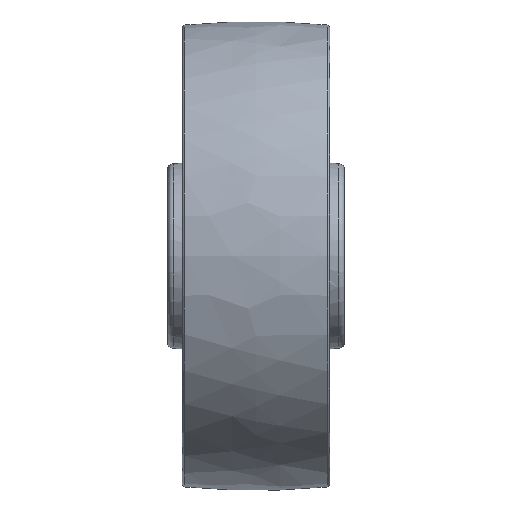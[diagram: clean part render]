
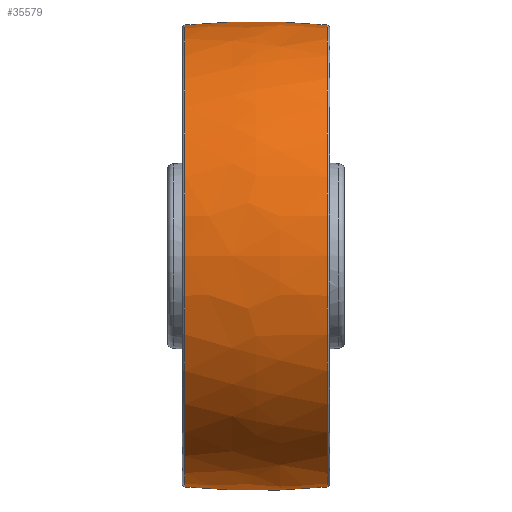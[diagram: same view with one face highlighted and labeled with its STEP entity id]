
A CAD part, top view. The second image highlights one B-rep face of the part: STEP entity #35579.
In plain terms, the highlighted free-form (B-spline) face has degree [3, 3] with [7, 4] control points.
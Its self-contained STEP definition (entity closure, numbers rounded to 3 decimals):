
#225 = CARTESIAN_POINT ( 'NONE',  ( 8.38, -79.763, -5.018 ) ) ;
#292 =( BOUNDED_SURFACE ( )  B_SPLINE_SURFACE ( 3, 3, ( 
 ( #28145, #43094, #48401, #2889 ),
 ( #23142, #43415, #38472, #28474 ),
 ( #3214, #43756, #38793, #58983 ),
 ( #59644, #8873, #19823, #19159 ),
 ( #34781, #40088, #64951, #30446 ),
 ( #60296, #24809, #14847, #3880 ),
 ( #45708, #35102, #225, #54673 ) ),
 .UNSPECIFIED., .F., .F., .T. ) 
 B_SPLINE_SURFACE_WITH_KNOTS ( ( 4, 3, 4 ),
 ( 4, 4 ),
 ( 0., 1., 2. ),
 ( 0., 1. ),
 .UNSPECIFIED. ) 
 GEOMETRIC_REPRESENTATION_ITEM ( )  RATIONAL_B_SPLINE_SURFACE ( (
 ( 1.19, 1.186, 1.186, 1.19),
 ( 0.94, 0.937, 0.937, 0.94),
 ( 0.94, 0.937, 0.937, 0.94),
 ( 1.19, 1.186, 1.186, 1.19),
 ( 0.94, 0.937, 0.937, 0.94),
 ( 0.94, 0.937, 0.937, 0.94),
 ( 1.19, 1.186, 1.186, 1.19) ) ) 
 REPRESENTATION_ITEM ( '' )  SURFACE ( )  );
#520 = CIRCLE ( 'NONE', #13280, 250. ) ;
#2563 = FACE_OUTER_BOUND ( 'NONE', #44171, .T. ) ;
#2689 = CARTESIAN_POINT ( 'NONE',  ( 24.096, -78.336, 0. ) ) ;
#2844 = DIRECTION ( 'NONE',  ( 0., -1., 0. ) ) ;
#2889 = CARTESIAN_POINT ( 'NONE',  ( 25.057, 78.087, -4.913 ) ) ;
#3001 = VERTEX_POINT ( 'NONE', #21703 ) ;
#3214 = CARTESIAN_POINT ( 'NONE',  ( -25.057, 48.149, 78.241 ) ) ;
#3880 = CARTESIAN_POINT ( 'NONE',  ( 25.057, -81.11, 43.142 ) ) ;
#5288 = DIRECTION ( 'NONE',  ( 0.096, 0.995, 0. ) ) ;
#6335 = CARTESIAN_POINT ( 'NONE',  ( -24.096, 0., 0. ) ) ;
#7300 = ORIENTED_EDGE ( 'NONE', *, *, #49768, .F. ) ;
#8873 = CARTESIAN_POINT ( 'NONE',  ( -8.38, 0., 79.921 ) ) ;
#9966 = CARTESIAN_POINT ( 'NONE',  ( 0., 170.5, 0. ) ) ;
#11451 = ORIENTED_EDGE ( 'NONE', *, *, #51114, .T. ) ;
#12252 = EDGE_CURVE ( 'NONE', #21479, #29710, #43837, .T. ) ;
#13280 = AXIS2_PLACEMENT_3D ( 'NONE', #9966, #61375, #61054 ) ;
#14847 = CARTESIAN_POINT ( 'NONE',  ( 8.38, -82.852, 44.068 ) ) ;
#19159 = CARTESIAN_POINT ( 'NONE',  ( 25.057, 0., 78.241 ) ) ;
#19823 = CARTESIAN_POINT ( 'NONE',  ( 8.38, 0., 79.921 ) ) ;
#20095 = ORIENTED_EDGE ( 'NONE', *, *, #57176, .T. ) ;
#21479 = VERTEX_POINT ( 'NONE', #47758 ) ;
#21703 = CARTESIAN_POINT ( 'NONE',  ( 24.096, 78.336, 0. ) ) ;
#23027 = CARTESIAN_POINT ( 'NONE',  ( -24.096, 78.336, 0. ) ) ;
#23142 = CARTESIAN_POINT ( 'NONE',  ( -25.057, 81.11, 43.142 ) ) ;
#24809 = CARTESIAN_POINT ( 'NONE',  ( -8.38, -82.852, 44.068 ) ) ;
#27129 = AXIS2_PLACEMENT_3D ( 'NONE', #48672, #48357, #2844 ) ;
#28145 = CARTESIAN_POINT ( 'NONE',  ( -25.057, 78.087, -4.913 ) ) ;
#28148 = CIRCLE ( 'NONE', #27129, 78.336 ) ;
#28474 = CARTESIAN_POINT ( 'NONE',  ( 25.057, 81.11, 43.142 ) ) ;
#29710 = VERTEX_POINT ( 'NONE', #23027 ) ;
#30087 = VERTEX_POINT ( 'NONE', #2689 ) ;
#30428 = AXIS2_PLACEMENT_3D ( 'NONE', #64733, #41503, #5288 ) ;
#30446 = CARTESIAN_POINT ( 'NONE',  ( 25.057, -48.149, 78.241 ) ) ;
#34781 = CARTESIAN_POINT ( 'NONE',  ( -25.057, -48.149, 78.241 ) ) ;
#35102 = CARTESIAN_POINT ( 'NONE',  ( -8.38, -79.763, -5.018 ) ) ;
#35579 = ADVANCED_FACE ( 'NONE', ( #2563 ), #292, .T. ) ;
#38472 = CARTESIAN_POINT ( 'NONE',  ( 8.38, 82.852, 44.068 ) ) ;
#38793 = CARTESIAN_POINT ( 'NONE',  ( 8.38, 49.183, 79.921 ) ) ;
#40088 = CARTESIAN_POINT ( 'NONE',  ( -8.38, -49.183, 79.921 ) ) ;
#41503 = DIRECTION ( 'NONE',  ( 0., 0., 1. ) ) ;
#42537 = ORIENTED_EDGE ( 'NONE', *, *, #12252, .F. ) ;
#43094 = CARTESIAN_POINT ( 'NONE',  ( -8.38, 79.763, -5.018 ) ) ;
#43415 = CARTESIAN_POINT ( 'NONE',  ( -8.38, 82.852, 44.068 ) ) ;
#43756 = CARTESIAN_POINT ( 'NONE',  ( -8.38, 49.183, 79.921 ) ) ;
#43837 = CIRCLE ( 'NONE', #49095, 78.336 ) ;
#44171 = EDGE_LOOP ( 'NONE', ( #7300, #11451, #20095, #42537 ) ) ;
#45708 = CARTESIAN_POINT ( 'NONE',  ( -25.057, -78.087, -4.913 ) ) ;
#47523 = DIRECTION ( 'NONE',  ( -1., 0., 0. ) ) ;
#47758 = CARTESIAN_POINT ( 'NONE',  ( -24.096, -78.336, 0. ) ) ;
#48357 = DIRECTION ( 'NONE',  ( -1., 0., 0. ) ) ;
#48401 = CARTESIAN_POINT ( 'NONE',  ( 8.38, 79.763, -5.018 ) ) ;
#48672 = CARTESIAN_POINT ( 'NONE',  ( 24.096, 0., 0. ) ) ;
#49095 = AXIS2_PLACEMENT_3D ( 'NONE', #6335, #47523, #62117 ) ;
#49768 = EDGE_CURVE ( 'NONE', #30087, #21479, #520, .T. ) ;
#51114 = EDGE_CURVE ( 'NONE', #30087, #3001, #28148, .T. ) ;
#54673 = CARTESIAN_POINT ( 'NONE',  ( 25.057, -78.087, -4.913 ) ) ;
#57176 = EDGE_CURVE ( 'NONE', #3001, #29710, #59012, .T. ) ;
#58983 = CARTESIAN_POINT ( 'NONE',  ( 25.057, 48.149, 78.241 ) ) ;
#59012 = CIRCLE ( 'NONE', #30428, 250. ) ;
#59644 = CARTESIAN_POINT ( 'NONE',  ( -25.057, 0., 78.241 ) ) ;
#60296 = CARTESIAN_POINT ( 'NONE',  ( -25.057, -81.11, 43.142 ) ) ;
#61054 = DIRECTION ( 'NONE',  ( 0.096, -0.995, 0. ) ) ;
#61375 = DIRECTION ( 'NONE',  ( 0., 0., -1. ) ) ;
#62117 = DIRECTION ( 'NONE',  ( 0., -1., 0. ) ) ;
#64733 = CARTESIAN_POINT ( 'NONE',  ( 0., -170.5, 0. ) ) ;
#64951 = CARTESIAN_POINT ( 'NONE',  ( 8.38, -49.183, 79.921 ) ) ;
